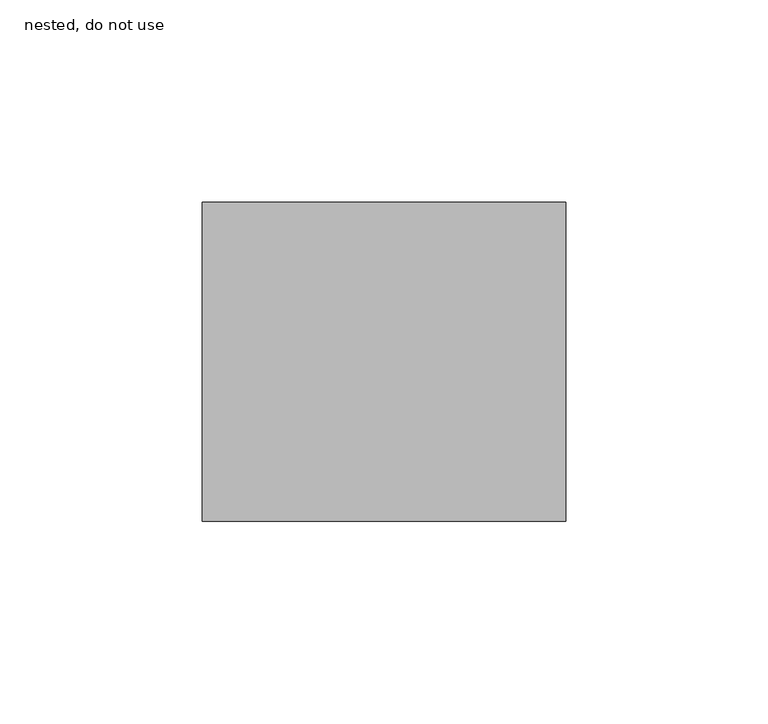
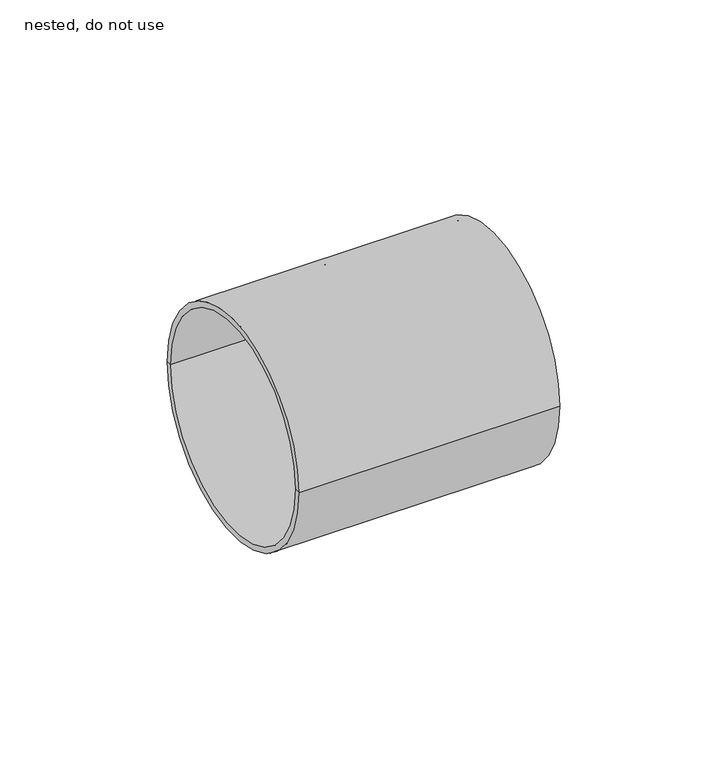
"""IFC4 building model written with IfcOpenShell, lengths in millimetres: pipe fitting geometry, NLRS_52_PIF_UN_Vacurain Flex steekmof_SH_Dyka : nested, do not use."""

from ifc_helpers import new_model, si_unit, frame, origin, place, context, project, spatial, polyline, circle_curve, source, transform, mapped, element, save
from ifc_brep_helpers import plane_surface, cylinder_surface, revolved_surface, advanced_brep


def nested_do_not_use_786f549d(model_context):
    return source(origin(), model_context, "Body", "AdvancedBrep", [
        advanced_brep(
        [(45.0, -39.5, 0.0), (45.0, 39.5, 0.0), (45.0, 37.5, 0.0), (45.0, -37.5, 0.0), (-45.0, -39.5, 0.0), (-45.0, 39.5, 0.0), (-45.0, -37.5, 0.0), (-45.0, 37.5, 0.0), (-1.0, -37.5, 0.0), (-1.0, 37.5, 0.0), (-1.0, 0.0, 0.0), (1.0, -37.5, 0.0), (1.0, 37.5, 0.0), (1.0, 0.0, 0.0)],
        [
            (0, 1, circle_curve(frame((45.0, 0.0, 0.0), z_axis=(1.0, 0.0, 0.0), x_axis=(0.0, 1.0, 0.0)), 39.5)),
            (1, 2),
            (2, 3, circle_curve(frame((45.0, 0.0, 0.0), z_axis=(-1.0, 0.0, 0.0), x_axis=(0.0, 1.0, 0.0)), 37.5)),
            (3, 0),
            (1, 0, circle_curve(frame((45.0, 0.0, 0.0), z_axis=(1.0, 0.0, 0.0), x_axis=(0.0, 1.0, 0.0)), 39.5)),
            (3, 2, circle_curve(frame((45.0, 0.0, 0.0), z_axis=(-1.0, 0.0, 0.0), x_axis=(0.0, 1.0, 0.0)), 37.5)),
            (4, 5, circle_curve(frame((-45.0, 0.0, 0.0), z_axis=(1.0, 0.0, 0.0), x_axis=(0.0, 1.0, 0.0)), 39.5)),
            (5, 1),
            (0, 4),
            (5, 4, circle_curve(frame((-45.0, 0.0, 0.0), z_axis=(1.0, 0.0, 0.0), x_axis=(0.0, 1.0, 0.0)), 39.5)),
            (6, 7, circle_curve(frame((-45.0, 0.0, 0.0), z_axis=(1.0, 0.0, 0.0), x_axis=(0.0, 1.0, 0.0)), 37.5)),
            (7, 5),
            (4, 6),
            (7, 6, circle_curve(frame((-45.0, 0.0, 0.0), z_axis=(1.0, 0.0, 0.0), x_axis=(0.0, 1.0, 0.0)), 37.5)),
            (8, 9, circle_curve(frame((-1.0, 0.0, 0.0), z_axis=(1.0, 0.0, 0.0), x_axis=(0.0, 1.0, 0.0)), 37.5)),
            (9, 7),
            (6, 8),
            (9, 8, circle_curve(frame((-1.0, 0.0, 0.0), z_axis=(1.0, 0.0, 0.0), x_axis=(0.0, 1.0, 0.0)), 37.5)),
            (10, 9),
            (8, 10),
            (11, 12, circle_curve(frame((1.0, 0.0, 0.0), z_axis=(1.0, 0.0, 0.0), x_axis=(0.0, 1.0, 0.0)), 37.5)),
            (12, 13),
            (13, 11),
            (12, 11, circle_curve(frame((1.0, 0.0, 0.0), z_axis=(1.0, 0.0, 0.0), x_axis=(0.0, 1.0, 0.0)), 37.5)),
            (2, 12),
            (11, 3),
        ],
        [
            plane_surface(frame((45.0, 0.0, 0.0), z_axis=(1.0, 0.0, 0.0), x_axis=(0.0, 1.0, 0.0))),
            cylinder_surface(frame((-51.9, 0.0, 0.0), z_axis=(-1.0, 0.0, 0.0), x_axis=(0.0, 1.0, 0.0)), 39.5),
            plane_surface(frame((-45.0, 0.0, 0.0), z_axis=(-1.0, 0.0, 0.0), x_axis=(0.0, 1.0, 0.0))),
            revolved_surface(polyline([(-45.0, 37.5, 0.0), (-1.0, 37.5, 0.0)]), (-51.9, 0.0, 0.0), (-1.0, 0.0, 0.0)),
            plane_surface(frame((-1.0, 0.0, 0.0), z_axis=(-1.0, 0.0, 0.0), x_axis=(0.0, 1.0, 0.0))),
            plane_surface(frame((1.0, 0.0, 0.0), z_axis=(1.0, 0.0, 0.0), x_axis=(0.0, 1.0, 0.0))),
            revolved_surface(polyline([(1.0, 37.5, 0.0), (45.00000000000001, 37.5, 0.0)]), (-51.9, 0.0, 0.0), (-1.0, 0.0, 0.0)),
        ],
        [
            (0, [[1, 2, 3, 4]]),
            (0, [[5, -4, 6, -2]]),
            (1, [[7, 8, -1, 9]]),
            (1, [[10, -9, -5, -8]]),
            (2, [[11, 12, -7, 13]]),
            (2, [[14, -13, -10, -12]]),
            (3, [[15, 16, -11, 17]]),
            (3, [[18, -17, -14, -16]]),
            (4, [[19, -15, 20]]),
            (4, [[-20, -18, -19]]),
            (5, [[21, 22, 23]]),
            (5, [[24, -23, -22]]),
            (6, [[-3, 25, -21, 26]]),
            (6, [[-6, -26, -24, -25]]),
        ],
    ),
    ])


if __name__ == "__main__":
    model = new_model("IFC4")
    model_context = context("Model", 3, world=origin())
    ifc_project = project(units=[si_unit("LENGTHUNIT", "METRE", prefix="MILLI")], contexts=[model_context])
    site = spatial("IfcSite", under=ifc_project)
    building = spatial("IfcBuilding", under=site)
    placement = place(None, origin())
    nested_do_not_use_shape = nested_do_not_use_786f549d(model_context)
    element("IfcPipeFitting", 1, ObjectType="NLRS_52_PIF_UN_Vacurain Flex steekmof_SH_Dyka : nested, do not use", at=placement, inside=building, context=model_context, shape_type="MappedRepresentation", body=[
        mapped(nested_do_not_use_shape, transform((0.0, 0.0, 0.0), x_axis=(1.0, 0.0, 0.0), y_axis=(0.0, 1.0, 0.0), z_axis=(0.0, 0.0, 1.0))),
    ])
    save(model, "model.ifc")
